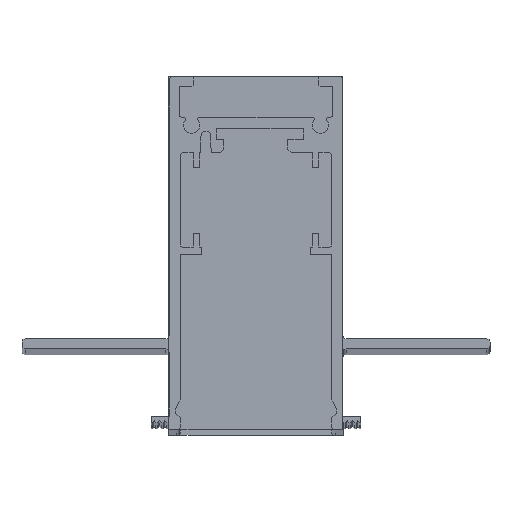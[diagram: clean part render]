
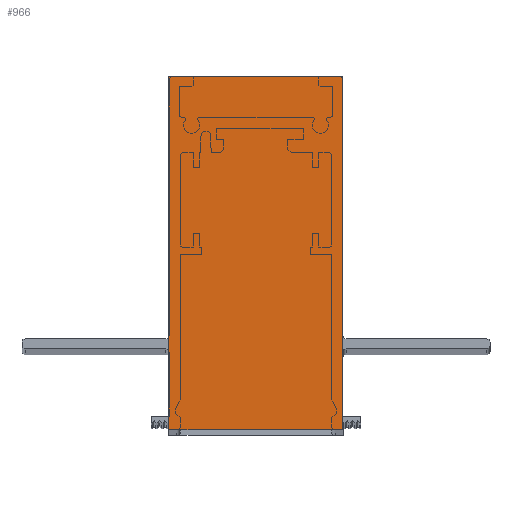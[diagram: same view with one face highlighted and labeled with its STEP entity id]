
A CAD part, top view. The second image highlights one B-rep face of the part: STEP entity #966.
In plain terms, the highlighted planar face has unit normal (0, 0, 1).
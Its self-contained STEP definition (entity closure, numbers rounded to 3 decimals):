
#631=FACE_OUTER_BOUND('',#1557,.T.);
#966=ADVANCED_FACE('',(#631),#1221,.T.);
#1221=PLANE('',#6840);
#1557=EDGE_LOOP('',(#3240,#3241,#3242,#3243));
#3240=ORIENTED_EDGE('',*,*,#5010,.F.);
#3241=ORIENTED_EDGE('',*,*,#5011,.F.);
#3242=ORIENTED_EDGE('',*,*,#5012,.F.);
#3243=ORIENTED_EDGE('',*,*,#5013,.F.);
#4156=VERTEX_POINT('',#10681);
#4157=VERTEX_POINT('',#10682);
#4158=VERTEX_POINT('',#10684);
#4159=VERTEX_POINT('',#10686);
#5010=EDGE_CURVE('',#4156,#4157,#5743,.T.);
#5011=EDGE_CURVE('',#4158,#4156,#5744,.T.);
#5012=EDGE_CURVE('',#4159,#4158,#5745,.T.);
#5013=EDGE_CURVE('',#4157,#4159,#5746,.T.);
#5743=LINE('',#10680,#6430);
#5744=LINE('',#10683,#6431);
#5745=LINE('',#10685,#6432);
#5746=LINE('',#10687,#6433);
#6430=VECTOR('',#8115,1.);
#6431=VECTOR('',#8116,1.);
#6432=VECTOR('',#8117,1.);
#6433=VECTOR('',#8118,1.);
#6840=AXIS2_PLACEMENT_3D('',#10688,#8119,#8120);
#8115=DIRECTION('',(-1.,0.,0.));
#8116=DIRECTION('',(0.,-1.,0.));
#8117=DIRECTION('',(1.,0.,0.));
#8118=DIRECTION('',(0.,1.,0.));
#8119=DIRECTION('',(0.,0.,1.));
#8120=DIRECTION('',(1.,0.,0.));
#10680=CARTESIAN_POINT('',(4984.534,3311.694,2.));
#10681=CARTESIAN_POINT('',(4997.464,3311.694,2.));
#10682=CARTESIAN_POINT('',(4971.604,3311.694,2.));
#10683=CARTESIAN_POINT('',(4997.464,3337.944,2.));
#10684=CARTESIAN_POINT('',(4997.464,3364.194,2.));
#10685=CARTESIAN_POINT('',(4984.534,3364.194,2.));
#10686=CARTESIAN_POINT('',(4971.604,3364.194,2.));
#10687=CARTESIAN_POINT('',(4971.604,3337.944,2.));
#10688=CARTESIAN_POINT('',(4984.534,3337.944,2.));
